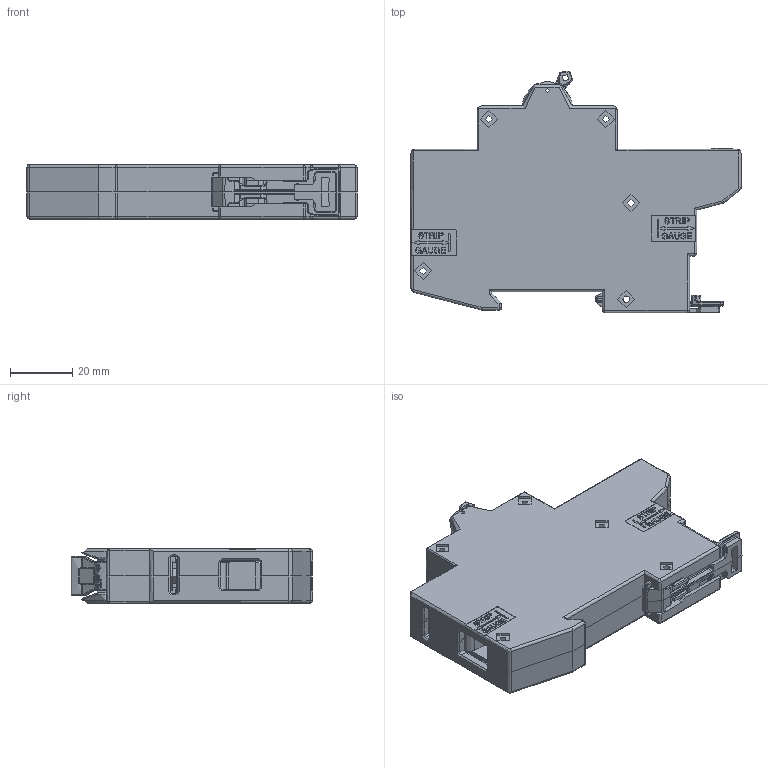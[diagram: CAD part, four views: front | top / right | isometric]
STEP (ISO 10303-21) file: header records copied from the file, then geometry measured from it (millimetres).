
FILE_DESCRIPTION(/* description */ (''),/* implementation_level */ '2;1');
FILE_NAME(/* name */ 'C:\Users\binnendijk\Desktop\GR_1p_with aux new.stp',/* time_stamp */ '2017-04-04T11:25:06+02:00',/* author */ ('NBinnendijk'),/* organization */ (''),/* preprocessor_version */ 'ST-DEVELOPER v15.2',/* originating_system */ 'Autodesk Inventor 2014',/* authorisation */ '');
FILE_SCHEMA (('AUTOMOTIVE_DESIGN { 1 0 10303 214 3 1 1 }'));
Products named in the file (1): GR_1p_with aux
Bounding box: 106.38 x 77.77 x 17.48 mm (x, y, z)
Surface area: 43077.4 mm2 (no closed solid volume)
Topology: 0 solids, 122 shells, 2139 faces, 8651 edges, 6544 vertices
Faces by surface type: plane 1301, cylinder 567, bspline 114, torus 81, cone 40, sphere 36
Full cylindrical faces by diameter (mm): 1.397 x2, 1.651 x1, 1.676 x1, 1.981 x2, 2.235 x1, 2.337 x8, 2.362 x2, 2.388 x1, 2.413 x1, 2.769 x1, 3.175 x2, 3.2 x1, 3.81 x3, 4.42 x2, 4.826 x2, 5.334 x1, 5.588 x10, 6.198 x1, 7.112 x1, 9.473 x1
Entity records: 99855 total; most frequent: CARTESIAN_POINT 30018, DIRECTION 13516, ORIENTED_EDGE 13389, EDGE_CURVE 8566, VERTEX_POINT 6532, LINE 6448, VECTOR 6448, AXIS2_PLACEMENT_3D 3534
